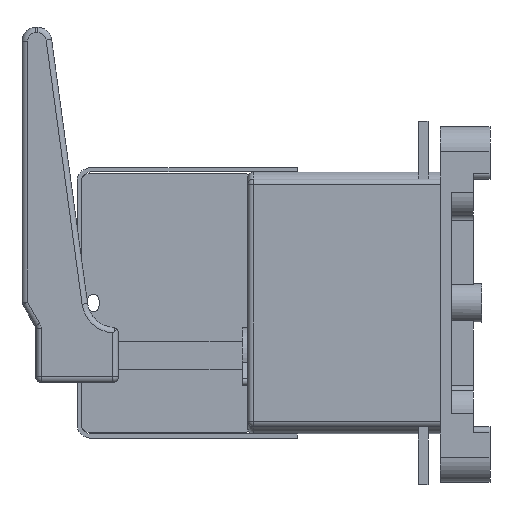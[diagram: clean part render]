
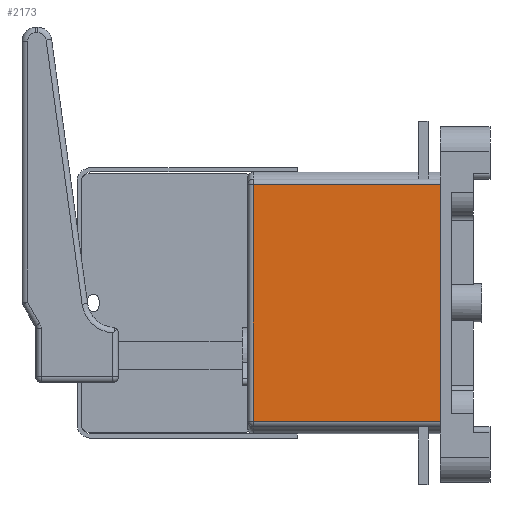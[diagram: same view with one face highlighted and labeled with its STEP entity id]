
A CAD part, left-side view. The second image highlights one B-rep face of the part: STEP entity #2173.
In plain terms, the highlighted planar face has unit normal (-1, 0, 0).
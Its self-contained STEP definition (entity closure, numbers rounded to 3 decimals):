
#2173=ADVANCED_FACE('',(#3519),#2732,.F.);
#2732=PLANE('',#18266);
#3519=FACE_OUTER_BOUND('',#4587,.T.);
#4587=EDGE_LOOP('',(#9140,#9141,#9142,#9143));
#9140=ORIENTED_EDGE('',*,*,#13308,.F.);
#9141=ORIENTED_EDGE('',*,*,#13293,.T.);
#9142=ORIENTED_EDGE('',*,*,#13309,.T.);
#9143=ORIENTED_EDGE('',*,*,#13025,.T.);
#10764=VERTEX_POINT('',#27315);
#10765=VERTEX_POINT('',#27317);
#10932=VERTEX_POINT('',#27875);
#10936=VERTEX_POINT('',#27891);
#13025=EDGE_CURVE('',#10765,#10764,#14877,.T.);
#13293=EDGE_CURVE('',#10932,#10936,#15025,.T.);
#13308=EDGE_CURVE('',#10932,#10764,#15033,.T.);
#13309=EDGE_CURVE('',#10936,#10765,#15034,.T.);
#14877=LINE('',#27316,#16602);
#15025=LINE('',#27892,#16750);
#15033=LINE('',#27931,#16758);
#15034=LINE('',#27933,#16759);
#16602=VECTOR('',#22356,1.);
#16750=VECTOR('',#22952,1.);
#16758=VECTOR('',#22980,1.);
#16759=VECTOR('',#22983,1.);
#18266=AXIS2_PLACEMENT_3D('',#27934,#22984,#22985);
#22356=DIRECTION('',(0.,0.,1.));
#22952=DIRECTION('',(0.,0.,-1.));
#22980=DIRECTION('',(0.,-1.,0.));
#22983=DIRECTION('',(0.,-1.,0.));
#22984=DIRECTION('',(1.,0.,0.));
#22985=DIRECTION('',(0.,0.,-1.));
#27315=CARTESIAN_POINT('',(-41.,0.,43.));
#27316=CARTESIAN_POINT('',(-41.,0.,-43.));
#27317=CARTESIAN_POINT('',(-41.,0.,-43.));
#27875=CARTESIAN_POINT('',(-41.,68.,43.));
#27891=CARTESIAN_POINT('',(-41.,68.,-43.));
#27892=CARTESIAN_POINT('',(-41.,68.,-43.));
#27931=CARTESIAN_POINT('',(-41.,35.,43.));
#27933=CARTESIAN_POINT('',(-41.,35.,-43.));
#27934=CARTESIAN_POINT('',(-41.,35.,-43.));
